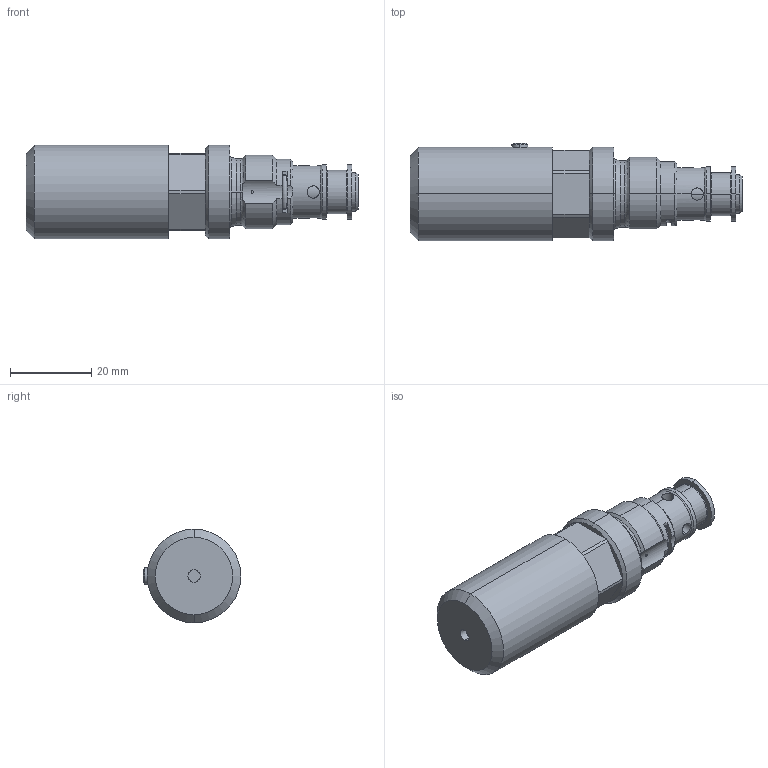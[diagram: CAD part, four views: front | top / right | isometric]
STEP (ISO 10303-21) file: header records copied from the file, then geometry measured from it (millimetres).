
FILE_DESCRIPTION (( 'STEP AP214' ), '1' );
FILE_NAME ('BSAPM18.STEP', '2021-08-17T11:28:06', ( '' ), ( '' ), 'SwSTEP 2.0', 'SolidWorks 2020', '' );
FILE_SCHEMA (( 'AUTOMOTIVE_DESIGN' ));
Length unit declared in the file: millimetre
Products named in the file (1): BSAPM18
Bounding box: 81.63 x 24 x 23 mm (x, y, z)
Volume: 24867.5 mm3; surface area: 6357 mm2
Topology: 1 solids, 1 shells, 155 faces, 362 edges, 221 vertices
Faces by surface type: cylinder 57, plane 57, cone 30, torus 11
Entity records: 6793 total; most frequent: CARTESIAN_POINT 1561, DIRECTION 743, ORIENTED_EDGE 720, EDGE_CURVE 360, AXIS2_PLACEMENT_3D 299, VERTEX_POINT 221, EDGE_LOOP 169, UNCERTAINTY_MEASURE_WITH_UNIT 158
